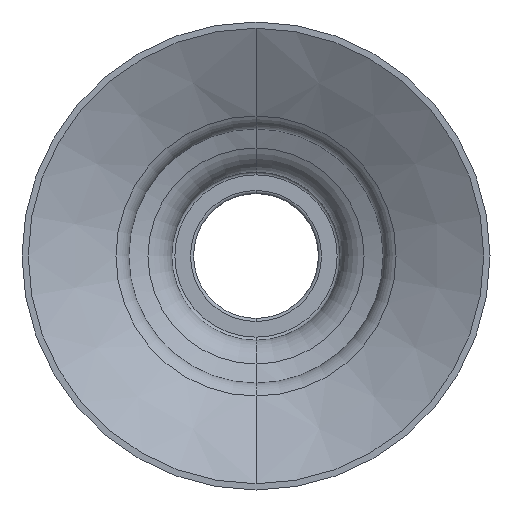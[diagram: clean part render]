
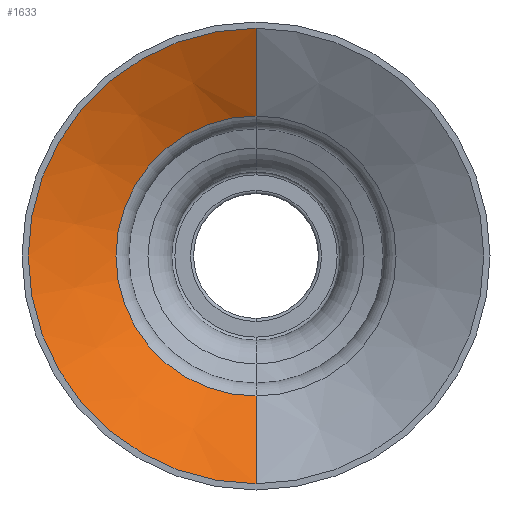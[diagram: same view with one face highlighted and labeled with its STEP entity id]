
A CAD part, front view. The second image highlights one B-rep face of the part: STEP entity #1633.
In plain terms, the highlighted conical face has half-angle 61.139 degrees and reference radius 14.6 mm.
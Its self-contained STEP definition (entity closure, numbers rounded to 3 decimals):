
#120 = LINE ( 'NONE', #245, #351 ) ;
#169 = CARTESIAN_POINT ( 'NONE',  ( 0., -32., 0. ) ) ;
#245 = CARTESIAN_POINT ( 'NONE',  ( 0., -32., -14.6 ) ) ;
#290 = EDGE_CURVE ( 'NONE', #1831, #1571, #701, .T. ) ;
#296 = CARTESIAN_POINT ( 'NONE',  ( 0., -28.901, -8.978 ) ) ;
#298 = DIRECTION ( 'NONE',  ( 0., 1., 0. ) ) ;
#308 = EDGE_CURVE ( 'NONE', #1040, #1768, #120, .T. ) ;
#338 = CONICAL_SURFACE ( 'NONE', #709, 14.6, 1.067 ) ;
#351 = VECTOR ( 'NONE', #1267, 1000. ) ;
#471 = ORIENTED_EDGE ( 'NONE', *, *, #561, .F. ) ;
#561 = EDGE_CURVE ( 'NONE', #1768, #1571, #1111, .T. ) ;
#649 = DIRECTION ( 'NONE',  ( 0., -1., 0. ) ) ;
#701 = LINE ( 'NONE', #1404, #1553 ) ;
#709 = AXIS2_PLACEMENT_3D ( 'NONE', #1507, #649, #795 ) ;
#795 = DIRECTION ( 'NONE',  ( 0., 0., -1. ) ) ;
#801 = DIRECTION ( 'NONE',  ( 0., 1., 0. ) ) ;
#873 = FACE_OUTER_BOUND ( 'NONE', #1815, .T. ) ;
#1009 = AXIS2_PLACEMENT_3D ( 'NONE', #169, #298, #1325 ) ;
#1024 = ORIENTED_EDGE ( 'NONE', *, *, #308, .F. ) ;
#1040 = VERTEX_POINT ( 'NONE', #296 ) ;
#1111 = CIRCLE ( 'NONE', #1009, 14.6 ) ;
#1267 = DIRECTION ( 'NONE',  ( 0., -0.483, -0.876 ) ) ;
#1278 = CARTESIAN_POINT ( 'NONE',  ( 0., -32., -14.6 ) ) ;
#1325 = DIRECTION ( 'NONE',  ( 0., 0., 1. ) ) ;
#1378 = CARTESIAN_POINT ( 'NONE',  ( 0., -32., 14.6 ) ) ;
#1379 = CARTESIAN_POINT ( 'NONE',  ( 0., -28.901, 8.978 ) ) ;
#1387 = DIRECTION ( 'NONE',  ( 0., 0., 1. ) ) ;
#1404 = CARTESIAN_POINT ( 'NONE',  ( 0., -32., 14.6 ) ) ;
#1417 = DIRECTION ( 'NONE',  ( 0., -0.483, 0.876 ) ) ;
#1507 = CARTESIAN_POINT ( 'NONE',  ( 0., -32., 0. ) ) ;
#1553 = VECTOR ( 'NONE', #1417, 1000. ) ;
#1561 = CIRCLE ( 'NONE', #1622, 8.978 ) ;
#1571 = VERTEX_POINT ( 'NONE', #1378 ) ;
#1622 = AXIS2_PLACEMENT_3D ( 'NONE', #1664, #801, #1387 ) ;
#1633 = ADVANCED_FACE ( 'NONE', ( #873 ), #338, .F. ) ;
#1653 = EDGE_CURVE ( 'NONE', #1040, #1831, #1561, .T. ) ;
#1664 = CARTESIAN_POINT ( 'NONE',  ( 0., -28.901, 0. ) ) ;
#1728 = ORIENTED_EDGE ( 'NONE', *, *, #1653, .T. ) ;
#1768 = VERTEX_POINT ( 'NONE', #1278 ) ;
#1779 = ORIENTED_EDGE ( 'NONE', *, *, #290, .T. ) ;
#1815 = EDGE_LOOP ( 'NONE', ( #1728, #1779, #471, #1024 ) ) ;
#1831 = VERTEX_POINT ( 'NONE', #1379 ) ;
